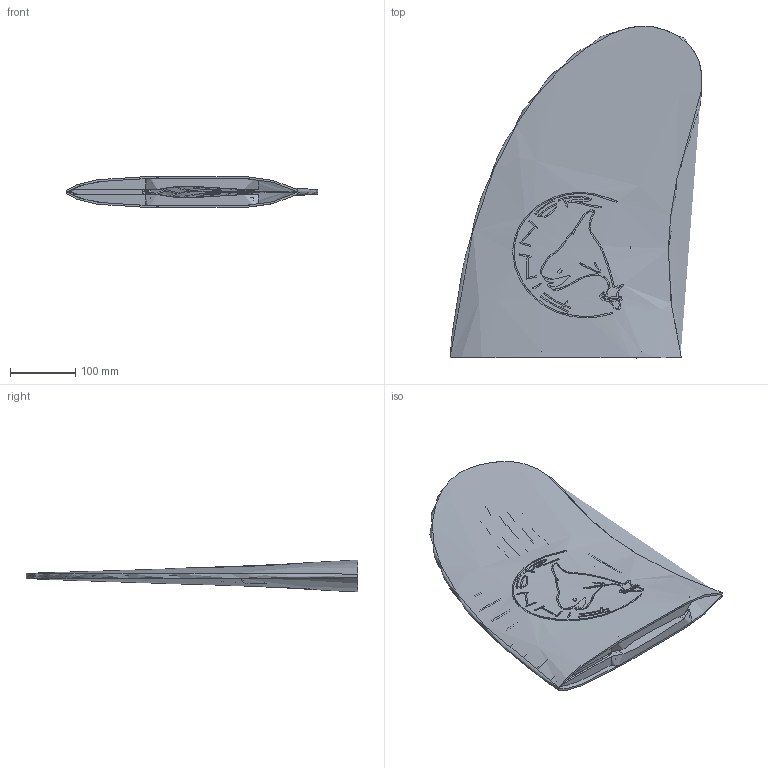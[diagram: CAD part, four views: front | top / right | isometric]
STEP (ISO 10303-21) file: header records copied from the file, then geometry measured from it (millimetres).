
FILE_DESCRIPTION(/* description */ (''),/* implementation_level */ '2;1');
FILE_NAME(/* name */ 'Suuruim16logo214.stp',/* time_stamp */ '2010-02-26T19:06:27+02:00',/* author */ (''),/* organization */ (''),/* preprocessor_version */ 'ST-DEVELOPER v11',/* originating_system */ 'SIEMENS PLM Software NX 7.0',/* authorisation */ '');
FILE_SCHEMA (('AUTOMOTIVE_DESIGN { 1 0 10303 214 1 1 1 1 }'));
Products named in the file (1): Suuruim16logo
Bounding box: 385.07 x 507.69 x 48.85 mm (x, y, z)
Volume: 1211967.4 mm3; surface area: 843640.8 mm2
Topology: 49 solids, 49 shells, 1182 faces, 3166 edges, 2108 vertices
Faces by surface type: extrusion 823, plane 186, bspline 173
Entity records: 66282 total; most frequent: CARTESIAN_POINT 41224, ORIENTED_EDGE 6306, EDGE_CURVE 3153, B_SPLINE_CURVE_WITH_KNOTS 2968, DIRECTION 2205, VERTEX_POINT 2106, VECTOR 1831, EDGE_LOOP 1235
